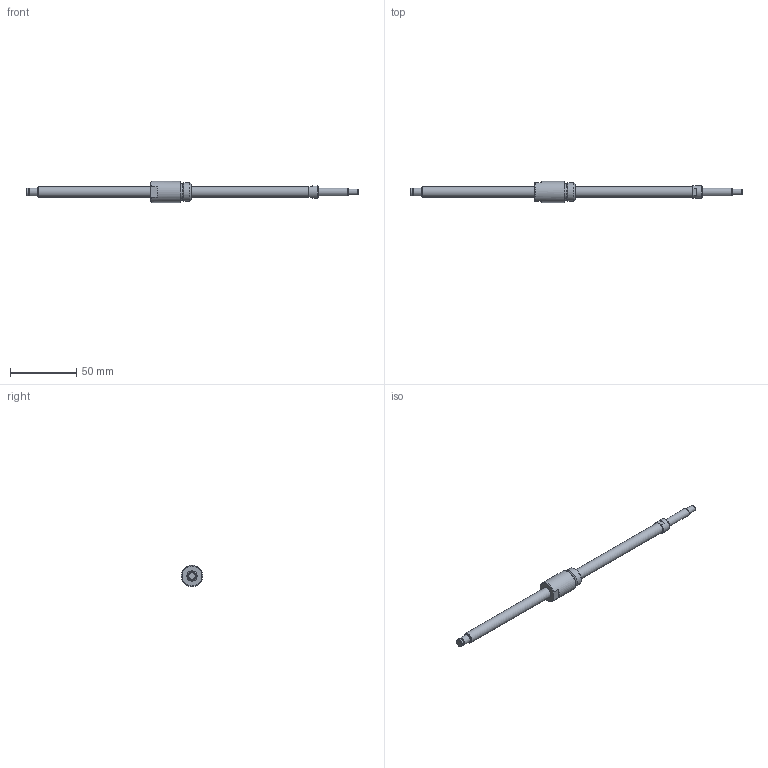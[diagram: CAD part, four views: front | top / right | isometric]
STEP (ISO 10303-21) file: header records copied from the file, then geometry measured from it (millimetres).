
FILE_DESCRIPTION(/* description */ ('STEP AP214'),/* implementation_level */ '2;1');
FILE_NAME(/* name */ 'NSG0805-200R250C5B0X(84.8)',/* time_stamp */ '2026-08-20T15:48:24+02:00',/* author */ ('License CC BY-ND 4.0'),/* organization */ ('CADENAS'),/* preprocessor_version */ 'ST-DEVELOPER v20',/* originating_system */ 'PARTsolutions',/* authorisation */ ' ');
FILE_SCHEMA (('AUTOMOTIVE_DESIGN {1 0 10303 214 3 1 1}'));
Length unit declared in the file: millimetre
Products named in the file (3): NSG0805-200R250C5B0X(84.8); NSG0805-200R250C3B_shaft; NSG0805_nut
Assembly tree (2 placements, depth 2):
  NSG0805-200R250C5B0X(84.8)
    NSG0805-200R250C3B_shaft
    NSG0805_nut
Bounding box: 250 x 16 x 16 mm (x, y, z)
Volume: 15802.8 mm3; surface area: 8690.4 mm2
Topology: 2 solids, 2 shells, 42 faces, 83 edges, 51 vertices
Faces by surface type: plane 20, cylinder 11, cone 10, torus 1
Full cylindrical faces by diameter (mm): 4.5 x1, 5.7 x1, 6 x3, 8 x2, 9.5 x1, 12.4 x1, 14 x1, 16 x1
Entity records: 1047 total; most frequent: DIRECTION 186, CARTESIAN_POINT 167, ORIENTED_EDGE 122, AXIS2_PLACEMENT_3D 84, EDGE_LOOP 70, FACE_BOUND 70, EDGE_CURVE 61, VERTEX_POINT 49
